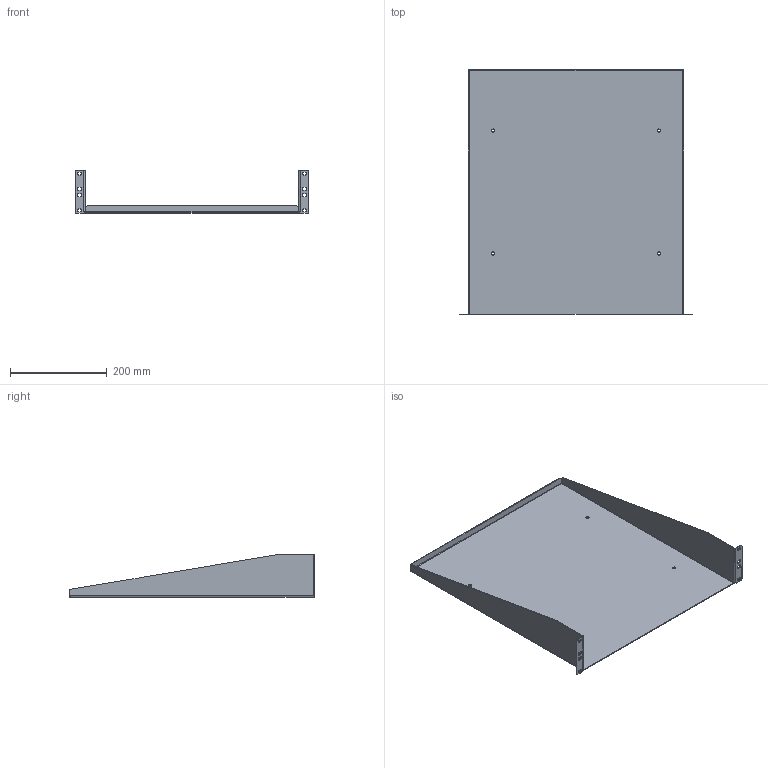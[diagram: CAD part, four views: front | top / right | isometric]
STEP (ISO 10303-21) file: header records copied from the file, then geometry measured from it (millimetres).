
FILE_DESCRIPTION( ( 'Unknown' ), '1' );
FILE_NAME( 'Q:/ACCESSORIES/SHELVES/RK _ RMA/WEB DRAWINGS/STEP/RASU190320.stp', 'Unknown', ( 'Unknown' ), ( 'Unknown' ), 'PSStep 10.1', 'Unknown', ' ' );
FILE_SCHEMA( ( 'AUTOMOTIVE_DESIGN { 1 0 10303 214 1 1 1 1 }' ) );
Length unit declared in the file: millimetre
Products named in the file (1): 1
Bounding box: 482.75 x 508 x 88.09 mm (x, y, z)
Volume: 529177.1 mm3; surface area: 583319.2 mm2
Topology: 1 solids, 1 shells, 100 faces, 274 edges, 176 vertices
Faces by surface type: plane 56, cylinder 40, bspline 4
Full cylindrical faces by diameter (mm): 6.35 x4
Entity records: 3445 total; most frequent: CARTESIAN_POINT 843, ORIENTED_EDGE 540, DIRECTION 524, EDGE_CURVE 270, AXIS2_PLACEMENT_3D 177, VERTEX_POINT 176, LINE 170, VECTOR 170
